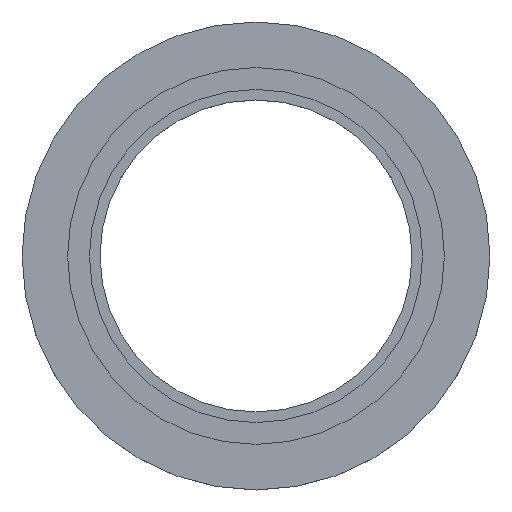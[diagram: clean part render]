
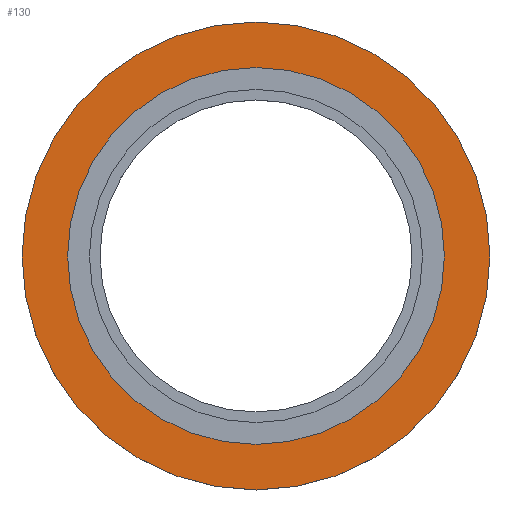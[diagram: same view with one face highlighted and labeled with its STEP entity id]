
A CAD part, top view. The second image highlights one B-rep face of the part: STEP entity #130.
In plain terms, the highlighted planar face has unit normal (0, 0, 1).
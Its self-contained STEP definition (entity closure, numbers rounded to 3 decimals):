
#28=FACE_BOUND('',#44,.T.);
#34=FACE_OUTER_BOUND('',#43,.T.);
#43=EDGE_LOOP('',(#104,#105));
#44=EDGE_LOOP('',(#106));
#54=CIRCLE('',#160,30.2);
#55=CIRCLE('',#162,37.5);
#56=CIRCLE('',#163,37.5);
#66=VERTEX_POINT('',#230);
#67=VERTEX_POINT('',#234);
#68=VERTEX_POINT('',#235);
#78=EDGE_CURVE('',#66,#66,#54,.T.);
#80=EDGE_CURVE('',#67,#68,#55,.T.);
#81=EDGE_CURVE('',#68,#67,#56,.T.);
#104=ORIENTED_EDGE('',*,*,#80,.T.);
#105=ORIENTED_EDGE('',*,*,#81,.T.);
#106=ORIENTED_EDGE('',*,*,#78,.T.);
#124=PLANE('',#166);
#130=ADVANCED_FACE('',(#34,#28),#124,.T.);
#160=AXIS2_PLACEMENT_3D('',#231,#187,#188);
#162=AXIS2_PLACEMENT_3D('',#236,#192,#193);
#163=AXIS2_PLACEMENT_3D('',#237,#194,#195);
#166=AXIS2_PLACEMENT_3D('',#243,#201,#202);
#187=DIRECTION('center_axis',(0.,0.,-1.));
#188=DIRECTION('ref_axis',(-1.,0.,0.));
#192=DIRECTION('center_axis',(0.,0.,1.));
#193=DIRECTION('ref_axis',(1.,0.,0.));
#194=DIRECTION('center_axis',(0.,0.,1.));
#195=DIRECTION('ref_axis',(1.,0.,0.));
#201=DIRECTION('center_axis',(0.,0.,1.));
#202=DIRECTION('ref_axis',(1.,0.,0.));
#230=CARTESIAN_POINT('',(30.2,0.,2.5));
#231=CARTESIAN_POINT('Origin',(0.,0.,2.5));
#234=CARTESIAN_POINT('',(37.5,0.,2.5));
#235=CARTESIAN_POINT('',(-37.5,0.,2.5));
#236=CARTESIAN_POINT('Origin',(0.,0.,2.5));
#237=CARTESIAN_POINT('Origin',(0.,0.,2.5));
#243=CARTESIAN_POINT('Origin',(0.,0.,2.5));
